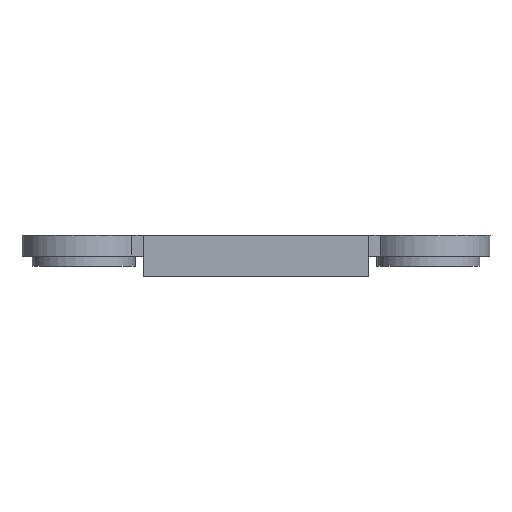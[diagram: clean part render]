
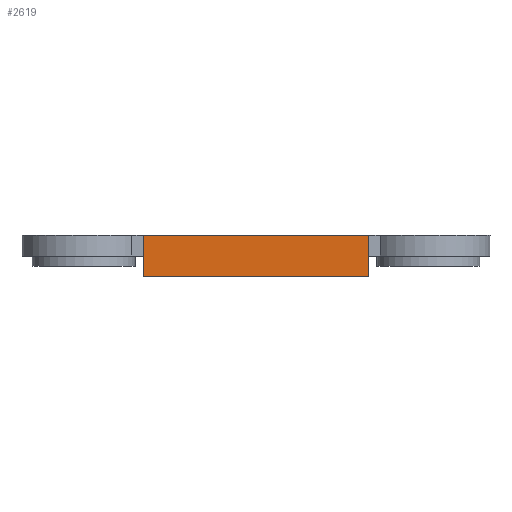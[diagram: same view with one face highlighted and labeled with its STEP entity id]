
A CAD part, front view. The second image highlights one B-rep face of the part: STEP entity #2619.
In plain terms, the highlighted planar face has unit normal (0, -1, 0).
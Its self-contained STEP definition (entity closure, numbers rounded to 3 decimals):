
#22 = VERTEX_POINT('',#23);
#23 = CARTESIAN_POINT('',(-4.238,-11.496,7.2));
#32 = PLANE('',#33);
#33 = AXIS2_PLACEMENT_3D('',#34,#35,#36);
#34 = CARTESIAN_POINT('',(-4.238,-11.496,6.));
#35 = DIRECTION('',(1.,0.,-0.));
#36 = DIRECTION('',(0.,0.,1.));
#44 = PLANE('',#45);
#45 = AXIS2_PLACEMENT_3D('',#46,#47,#48);
#46 = CARTESIAN_POINT('',(-4.238,-11.496,7.2));
#47 = DIRECTION('',(0.,0.,1.));
#48 = DIRECTION('',(1.,0.,-0.));
#56 = EDGE_CURVE('',#57,#22,#59,.T.);
#57 = VERTEX_POINT('',#58);
#58 = CARTESIAN_POINT('',(-4.238,-11.496,5.6));
#59 = SURFACE_CURVE('',#60,(#64,#71),.PCURVE_S1.);
#60 = LINE('',#61,#62);
#61 = CARTESIAN_POINT('',(-4.238,-11.496,5.6));
#62 = VECTOR('',#63,1.);
#63 = DIRECTION('',(0.,0.,1.));
#64 = PCURVE('',#32,#65);
#65 = DEFINITIONAL_REPRESENTATION('',(#66),#70);
#66 = LINE('',#67,#68);
#67 = CARTESIAN_POINT('',(-0.4,0.));
#68 = VECTOR('',#69,1.);
#69 = DIRECTION('',(1.,0.));
#70 = ( GEOMETRIC_REPRESENTATION_CONTEXT(2) 
PARAMETRIC_REPRESENTATION_CONTEXT() REPRESENTATION_CONTEXT('2D SPACE',''
  ) );
#71 = PCURVE('',#72,#77);
#72 = PLANE('',#73);
#73 = AXIS2_PLACEMENT_3D('',#74,#75,#76);
#74 = CARTESIAN_POINT('',(-4.238,-11.496,6.));
#75 = DIRECTION('',(-0.,1.,0.));
#76 = DIRECTION('',(0.,0.,1.));
#77 = DEFINITIONAL_REPRESENTATION('',(#78),#82);
#78 = LINE('',#79,#80);
#79 = CARTESIAN_POINT('',(-0.4,0.));
#80 = VECTOR('',#81,1.);
#81 = DIRECTION('',(1.,0.));
#82 = ( GEOMETRIC_REPRESENTATION_CONTEXT(2) 
PARAMETRIC_REPRESENTATION_CONTEXT() REPRESENTATION_CONTEXT('2D SPACE',''
  ) );
#100 = PLANE('',#101);
#101 = AXIS2_PLACEMENT_3D('',#102,#103,#104);
#102 = CARTESIAN_POINT('',(-4.238,-11.496,5.6));
#103 = DIRECTION('',(0.,0.,1.));
#104 = DIRECTION('',(1.,0.,-0.));
#1078 = PLANE('',#1079);
#1079 = AXIS2_PLACEMENT_3D('',#1080,#1081,#1082);
#1080 = CARTESIAN_POINT('',(4.522,-11.496,6.));
#1081 = DIRECTION('',(1.,0.,-0.));
#1082 = DIRECTION('',(0.,0.,1.));
#1115 = VERTEX_POINT('',#1116);
#1116 = CARTESIAN_POINT('',(4.522,-11.496,7.2));
#1137 = EDGE_CURVE('',#1138,#1115,#1140,.T.);
#1138 = VERTEX_POINT('',#1139);
#1139 = CARTESIAN_POINT('',(4.522,-11.496,5.6));
#1140 = SURFACE_CURVE('',#1141,(#1145,#1152),.PCURVE_S1.);
#1141 = LINE('',#1142,#1143);
#1142 = CARTESIAN_POINT('',(4.522,-11.496,5.6));
#1143 = VECTOR('',#1144,1.);
#1144 = DIRECTION('',(0.,0.,1.));
#1145 = PCURVE('',#1078,#1146);
#1146 = DEFINITIONAL_REPRESENTATION('',(#1147),#1151);
#1147 = LINE('',#1148,#1149);
#1148 = CARTESIAN_POINT('',(-0.4,0.));
#1149 = VECTOR('',#1150,1.);
#1150 = DIRECTION('',(1.,0.));
#1151 = ( GEOMETRIC_REPRESENTATION_CONTEXT(2) 
PARAMETRIC_REPRESENTATION_CONTEXT() REPRESENTATION_CONTEXT('2D SPACE',''
  ) );
#1152 = PCURVE('',#72,#1153);
#1153 = DEFINITIONAL_REPRESENTATION('',(#1154),#1158);
#1154 = LINE('',#1155,#1156);
#1155 = CARTESIAN_POINT('',(-0.4,8.76));
#1156 = VECTOR('',#1157,1.);
#1157 = DIRECTION('',(1.,0.));
#1158 = ( GEOMETRIC_REPRESENTATION_CONTEXT(2) 
PARAMETRIC_REPRESENTATION_CONTEXT() REPRESENTATION_CONTEXT('2D SPACE',''
  ) );
#2597 = EDGE_CURVE('',#57,#1138,#2598,.T.);
#2598 = SURFACE_CURVE('',#2599,(#2603,#2610),.PCURVE_S1.);
#2599 = LINE('',#2600,#2601);
#2600 = CARTESIAN_POINT('',(-4.238,-11.496,5.6));
#2601 = VECTOR('',#2602,1.);
#2602 = DIRECTION('',(1.,0.,-0.));
#2603 = PCURVE('',#100,#2604);
#2604 = DEFINITIONAL_REPRESENTATION('',(#2605),#2609);
#2605 = LINE('',#2606,#2607);
#2606 = CARTESIAN_POINT('',(0.,0.));
#2607 = VECTOR('',#2608,1.);
#2608 = DIRECTION('',(1.,0.));
#2609 = ( GEOMETRIC_REPRESENTATION_CONTEXT(2) 
PARAMETRIC_REPRESENTATION_CONTEXT() REPRESENTATION_CONTEXT('2D SPACE',''
  ) );
#2610 = PCURVE('',#72,#2611);
#2611 = DEFINITIONAL_REPRESENTATION('',(#2612),#2616);
#2612 = LINE('',#2613,#2614);
#2613 = CARTESIAN_POINT('',(-0.4,0.));
#2614 = VECTOR('',#2615,1.);
#2615 = DIRECTION('',(0.,1.));
#2616 = ( GEOMETRIC_REPRESENTATION_CONTEXT(2) 
PARAMETRIC_REPRESENTATION_CONTEXT() REPRESENTATION_CONTEXT('2D SPACE',''
  ) );
#2619 = ADVANCED_FACE('',(#2620),#72,.F.);
#2620 = FACE_BOUND('',#2621,.F.);
#2621 = EDGE_LOOP('',(#2622,#2643,#2644,#2645));
#2622 = ORIENTED_EDGE('',*,*,#2623,.T.);
#2623 = EDGE_CURVE('',#22,#1115,#2624,.T.);
#2624 = SURFACE_CURVE('',#2625,(#2629,#2636),.PCURVE_S1.);
#2625 = LINE('',#2626,#2627);
#2626 = CARTESIAN_POINT('',(-4.238,-11.496,7.2));
#2627 = VECTOR('',#2628,1.);
#2628 = DIRECTION('',(1.,0.,-0.));
#2629 = PCURVE('',#72,#2630);
#2630 = DEFINITIONAL_REPRESENTATION('',(#2631),#2635);
#2631 = LINE('',#2632,#2633);
#2632 = CARTESIAN_POINT('',(1.2,0.));
#2633 = VECTOR('',#2634,1.);
#2634 = DIRECTION('',(0.,1.));
#2635 = ( GEOMETRIC_REPRESENTATION_CONTEXT(2) 
PARAMETRIC_REPRESENTATION_CONTEXT() REPRESENTATION_CONTEXT('2D SPACE',''
  ) );
#2636 = PCURVE('',#44,#2637);
#2637 = DEFINITIONAL_REPRESENTATION('',(#2638),#2642);
#2638 = LINE('',#2639,#2640);
#2639 = CARTESIAN_POINT('',(0.,0.));
#2640 = VECTOR('',#2641,1.);
#2641 = DIRECTION('',(1.,0.));
#2642 = ( GEOMETRIC_REPRESENTATION_CONTEXT(2) 
PARAMETRIC_REPRESENTATION_CONTEXT() REPRESENTATION_CONTEXT('2D SPACE',''
  ) );
#2643 = ORIENTED_EDGE('',*,*,#1137,.F.);
#2644 = ORIENTED_EDGE('',*,*,#2597,.F.);
#2645 = ORIENTED_EDGE('',*,*,#56,.T.);
